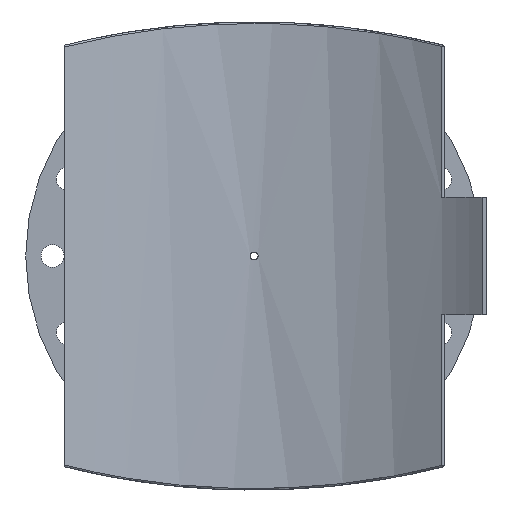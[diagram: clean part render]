
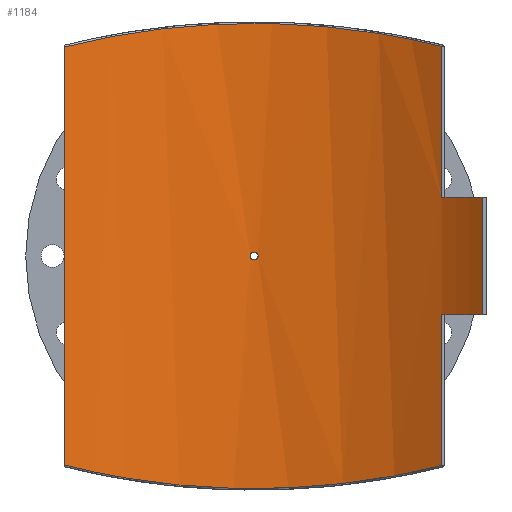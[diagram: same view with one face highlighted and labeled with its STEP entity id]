
A CAD part, front view. The second image highlights one B-rep face of the part: STEP entity #1184.
In plain terms, the highlighted cylindrical face has radius 450 mm (diameter 900 mm), a partial arc.
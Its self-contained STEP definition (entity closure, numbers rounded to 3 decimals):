
#55=FACE_BOUND('',#383,.T.);
#117=B_SPLINE_CURVE_WITH_KNOTS('',3,(#2384,#2385,#2386,#2387,#2388,#2389,
#2390,#2391,#2392,#2393),.UNSPECIFIED.,.F.,.F.,(4,1,1,1,1,1,1,4),(-59.648,
-52.116,-44.584,-37.052,-29.52,
-21.988,-14.456,-6.924),.UNSPECIFIED.);
#118=B_SPLINE_CURVE_WITH_KNOTS('',3,(#2402,#2403,#2404,#2405,#2406,#2407,
#2408,#2409,#2410,#2411),.UNSPECIFIED.,.F.,.F.,(4,1,1,1,1,1,1,4),(-55.32,
-47.788,-40.256,-32.724,-25.192,
-17.66,-10.128,-2.596),.UNSPECIFIED.);
#119=B_SPLINE_CURVE_WITH_KNOTS('',3,(#2414,#2415,#2416,#2417,#2418,#2419,
#2420,#2421,#2422,#2423),.UNSPECIFIED.,.F.,.F.,(4,2,2,2,4),(0.,0.196,
0.392,0.588,0.784),.UNSPECIFIED.);
#120=B_SPLINE_CURVE_WITH_KNOTS('',3,(#2424,#2425,#2426,#2427,#2428,#2429,
#2430,#2431,#2432,#2433,#2434,#2435,#2436,#2437,#2438,#2439,#2440,#2441,
#2442,#2443,#2444,#2445,#2446,#2447,#2448,#2449),.UNSPECIFIED.,.F.,.F.,
(4,2,2,2,2,2,2,2,2,2,2,2,4),(0.784,0.979,1.175,
1.371,1.567,1.763,1.959,2.155,
2.351,2.546,2.742,2.938,3.134),
 .UNSPECIFIED.);
#141=LINE('',#1776,#197);
#152=LINE('',#2076,#208);
#159=LINE('',#2398,#215);
#160=LINE('',#2401,#216);
#197=VECTOR('',#1418,10.);
#208=VECTOR('',#1457,10.);
#215=VECTOR('',#1494,10.);
#216=VECTOR('',#1497,10.);
#262=CYLINDRICAL_SURFACE('',#1286,450.);
#311=FACE_OUTER_BOUND('',#382,.T.);
#382=EDGE_LOOP('',(#915,#916,#917,#918,#919,#920,#921,#922));
#383=EDGE_LOOP('',(#923,#924));
#490=CIRCLE('',#1287,450.);
#491=CIRCLE('',#1288,450.);
#561=VERTEX_POINT('',#1767);
#564=VERTEX_POINT('',#1774);
#584=VERTEX_POINT('',#2069);
#587=VERTEX_POINT('',#2074);
#600=VERTEX_POINT('',#2370);
#601=VERTEX_POINT('',#2395);
#602=VERTEX_POINT('',#2397);
#603=VERTEX_POINT('',#2400);
#604=VERTEX_POINT('',#2412);
#605=VERTEX_POINT('',#2413);
#674=EDGE_CURVE('',#564,#561,#141,.T.);
#704=EDGE_CURVE('',#587,#584,#152,.T.);
#727=EDGE_CURVE('',#600,#587,#117,.T.);
#728=EDGE_CURVE('',#601,#564,#490,.T.);
#729=EDGE_CURVE('',#601,#602,#159,.T.);
#730=EDGE_CURVE('',#584,#602,#491,.T.);
#731=EDGE_CURVE('',#603,#600,#160,.T.);
#732=EDGE_CURVE('',#561,#603,#118,.T.);
#733=EDGE_CURVE('',#604,#605,#119,.T.);
#734=EDGE_CURVE('',#605,#604,#120,.T.);
#915=ORIENTED_EDGE('',*,*,#728,.F.);
#916=ORIENTED_EDGE('',*,*,#729,.T.);
#917=ORIENTED_EDGE('',*,*,#730,.F.);
#918=ORIENTED_EDGE('',*,*,#704,.F.);
#919=ORIENTED_EDGE('',*,*,#727,.F.);
#920=ORIENTED_EDGE('',*,*,#731,.F.);
#921=ORIENTED_EDGE('',*,*,#732,.F.);
#922=ORIENTED_EDGE('',*,*,#674,.F.);
#923=ORIENTED_EDGE('',*,*,#733,.T.);
#924=ORIENTED_EDGE('',*,*,#734,.T.);
#1184=ADVANCED_FACE('',(#311,#55),#262,.F.);
#1286=AXIS2_PLACEMENT_3D('',#2394,#1490,#1491);
#1287=AXIS2_PLACEMENT_3D('',#2396,#1492,#1493);
#1288=AXIS2_PLACEMENT_3D('',#2399,#1495,#1496);
#1418=DIRECTION('',(0.,0.,-1.));
#1457=DIRECTION('',(0.,0.,-1.));
#1490=DIRECTION('center_axis',(0.,0.,1.));
#1491=DIRECTION('ref_axis',(-1.,0.,0.));
#1492=DIRECTION('center_axis',(0.,0.,1.));
#1493=DIRECTION('ref_axis',(-0.66,-0.751,0.));
#1494=DIRECTION('',(0.,0.,1.));
#1495=DIRECTION('center_axis',(0.,0.,-1.));
#1496=DIRECTION('ref_axis',(-0.66,-0.751,0.));
#1497=DIRECTION('',(0.,0.,1.));
#1767=CARTESIAN_POINT('',(244.414,377.839,-272.938));
#1774=CARTESIAN_POINT('',(244.414,377.839,-76.25));
#1776=CARTESIAN_POINT('',(244.414,377.839,0.));
#2069=CARTESIAN_POINT('',(244.414,377.839,76.25));
#2074=CARTESIAN_POINT('',(244.414,377.839,272.938));
#2076=CARTESIAN_POINT('',(244.414,377.839,0.));
#2370=CARTESIAN_POINT('',(-247.5,375.824,272.162));
#2384=CARTESIAN_POINT('Ctrl Pts',(-247.5,375.824,272.162));
#2385=CARTESIAN_POINT('Ctrl Pts',(-227.073,389.276,277.332));
#2386=CARTESIAN_POINT('Ctrl Pts',(-183.874,412.942,286.896));
#2387=CARTESIAN_POINT('Ctrl Pts',(-113.536,437.578,297.475));
#2388=CARTESIAN_POINT('Ctrl Pts',(-39.537,450.356,303.157));
#2389=CARTESIAN_POINT('Ctrl Pts',(35.76,450.674,303.301));
#2390=CARTESIAN_POINT('Ctrl Pts',(109.883,438.51,297.884));
#2391=CARTESIAN_POINT('Ctrl Pts',(180.454,414.451,287.529));
#2392=CARTESIAN_POINT('Ctrl Pts',(223.868,391.129,278.069));
#2393=CARTESIAN_POINT('Ctrl Pts',(244.414,377.839,272.938));
#2394=CARTESIAN_POINT('Origin',(0.,0.,0.));
#2395=CARTESIAN_POINT('',(296.902,338.155,-76.25));
#2396=CARTESIAN_POINT('Origin',(0.,0.,
-76.25));
#2397=CARTESIAN_POINT('',(296.902,338.155,76.25));
#2398=CARTESIAN_POINT('',(296.902,338.155,0.));
#2399=CARTESIAN_POINT('Origin',(0.,0.,
76.25));
#2400=CARTESIAN_POINT('',(-247.5,375.824,-272.162));
#2401=CARTESIAN_POINT('',(-247.5,375.824,0.));
#2402=CARTESIAN_POINT('Ctrl Pts',(244.414,377.839,-272.938));
#2403=CARTESIAN_POINT('Ctrl Pts',(223.868,391.129,-278.069));
#2404=CARTESIAN_POINT('Ctrl Pts',(180.453,414.451,-287.529));
#2405=CARTESIAN_POINT('Ctrl Pts',(109.883,438.51,-297.885));
#2406=CARTESIAN_POINT('Ctrl Pts',(35.76,450.674,-303.3));
#2407=CARTESIAN_POINT('Ctrl Pts',(-39.537,450.356,-303.157));
#2408=CARTESIAN_POINT('Ctrl Pts',(-113.536,437.578,-297.475));
#2409=CARTESIAN_POINT('Ctrl Pts',(-183.874,412.942,-286.896));
#2410=CARTESIAN_POINT('Ctrl Pts',(-227.073,389.276,-277.332));
#2411=CARTESIAN_POINT('Ctrl Pts',(-247.5,375.824,-272.162));
#2412=CARTESIAN_POINT('',(5.2,449.97,0.));
#2413=CARTESIAN_POINT('',(0.,450.,-5.2));
#2414=CARTESIAN_POINT('Ctrl Pts',(5.2,449.97,0.));
#2415=CARTESIAN_POINT('Ctrl Pts',(5.2,449.97,-0.653));
#2416=CARTESIAN_POINT('Ctrl Pts',(5.07,449.972,-1.349));
#2417=CARTESIAN_POINT('Ctrl Pts',(4.539,449.977,-2.631));
#2418=CARTESIAN_POINT('Ctrl Pts',(4.139,449.981,-3.215));
#2419=CARTESIAN_POINT('Ctrl Pts',(3.215,449.989,-4.139));
#2420=CARTESIAN_POINT('Ctrl Pts',(2.631,449.993,-4.539));
#2421=CARTESIAN_POINT('Ctrl Pts',(1.349,449.998,-5.07));
#2422=CARTESIAN_POINT('Ctrl Pts',(0.653,450.,-5.2));
#2423=CARTESIAN_POINT('Ctrl Pts',(0.,450.,-5.2));
#2424=CARTESIAN_POINT('Ctrl Pts',(0.,450.,-5.2));
#2425=CARTESIAN_POINT('Ctrl Pts',(-0.653,450.,-5.2));
#2426=CARTESIAN_POINT('Ctrl Pts',(-1.349,449.998,-5.07));
#2427=CARTESIAN_POINT('Ctrl Pts',(-2.631,449.993,-4.539));
#2428=CARTESIAN_POINT('Ctrl Pts',(-3.215,449.989,-4.139));
#2429=CARTESIAN_POINT('Ctrl Pts',(-4.139,449.981,-3.215));
#2430=CARTESIAN_POINT('Ctrl Pts',(-4.539,449.977,-2.631));
#2431=CARTESIAN_POINT('Ctrl Pts',(-5.07,449.972,-1.349));
#2432=CARTESIAN_POINT('Ctrl Pts',(-5.2,449.97,-0.653));
#2433=CARTESIAN_POINT('Ctrl Pts',(-5.2,449.97,0.653));
#2434=CARTESIAN_POINT('Ctrl Pts',(-5.07,449.972,1.349));
#2435=CARTESIAN_POINT('Ctrl Pts',(-4.539,449.977,2.631));
#2436=CARTESIAN_POINT('Ctrl Pts',(-4.139,449.981,3.215));
#2437=CARTESIAN_POINT('Ctrl Pts',(-3.215,449.989,4.139));
#2438=CARTESIAN_POINT('Ctrl Pts',(-2.631,449.993,4.539));
#2439=CARTESIAN_POINT('Ctrl Pts',(-1.349,449.998,5.07));
#2440=CARTESIAN_POINT('Ctrl Pts',(-0.653,450.,5.2));
#2441=CARTESIAN_POINT('Ctrl Pts',(0.653,450.,5.2));
#2442=CARTESIAN_POINT('Ctrl Pts',(1.349,449.998,5.07));
#2443=CARTESIAN_POINT('Ctrl Pts',(2.631,449.993,4.539));
#2444=CARTESIAN_POINT('Ctrl Pts',(3.215,449.989,4.139));
#2445=CARTESIAN_POINT('Ctrl Pts',(4.139,449.981,3.215));
#2446=CARTESIAN_POINT('Ctrl Pts',(4.539,449.977,2.631));
#2447=CARTESIAN_POINT('Ctrl Pts',(5.07,449.972,1.349));
#2448=CARTESIAN_POINT('Ctrl Pts',(5.2,449.97,0.653));
#2449=CARTESIAN_POINT('Ctrl Pts',(5.2,449.97,0.));
